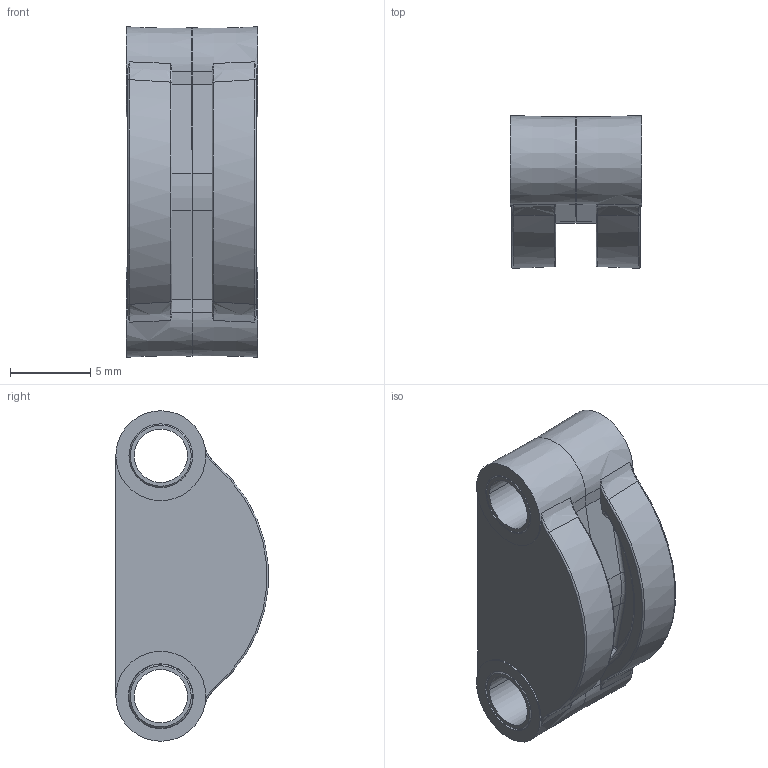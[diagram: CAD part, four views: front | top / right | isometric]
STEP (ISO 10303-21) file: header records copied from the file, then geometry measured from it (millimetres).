
FILE_DESCRIPTION((''),'2;1');
FILE_NAME('15300906_MBD F10.stp','2011-04-14T11:49:28',(''),(''),'Mechanical Desktop 2009','Mechanical Desktop 2009',', , ');
FILE_SCHEMA(('CONFIG_CONTROL_DESIGN'));
Length unit declared in the file: millimetre
Products named in the file (5): 15300906_MBD F10; KLEMMBACKE_F10_INDEX_4; HÜLSE_F10; TEIL1; RM_SDB
Assembly tree (9 placements, depth 3):
  15300906_MBD F10
    KLEMMBACKE_F10_INDEX_4  x2
    HÜLSE_F10  x2
      TEIL1
    RM_SDB  x4
Bounding box: 8.2 x 9.5 x 20.6 mm (x, y, z)
Volume: 862.3 mm3; surface area: 1627.9 mm2
Topology: 4 solids, 4 shells, 544 faces, 1252 edges, 822 vertices
Faces by surface type: plane 440, cone 46, bspline 28, cylinder 24, torus 6
Entity records: 8628 total; most frequent: CARTESIAN_POINT 2159, DIRECTION 1321, ORIENTED_EDGE 1252, EDGE_CURVE 626, AXIS2_PLACEMENT_3D 453, VECTOR 415, LINE 415, VERTEX_POINT 411
